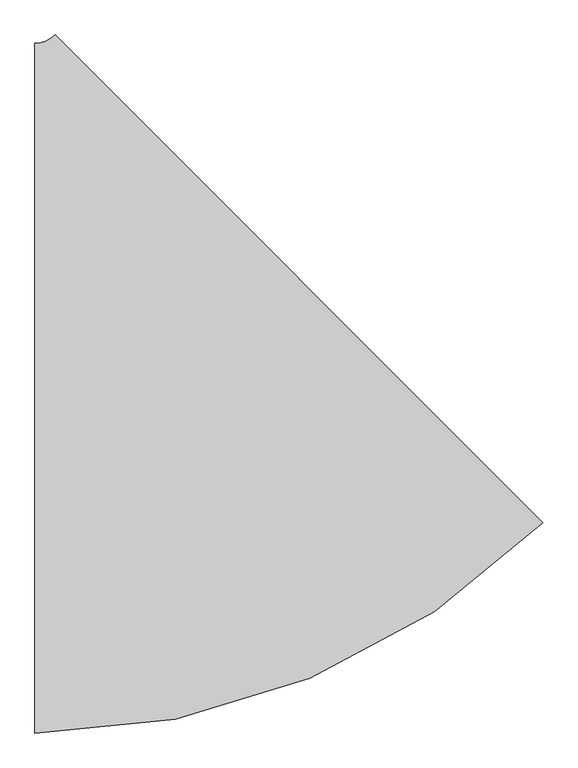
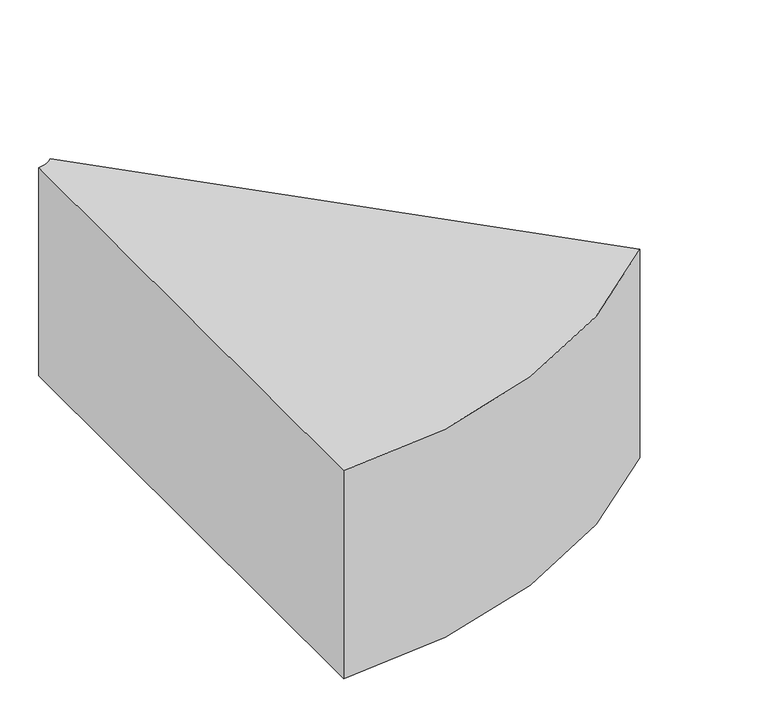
"""IFC4 building model written with IfcOpenShell, lengths in millimetres: duct fitting geometry, ADSK_ОтводВоздуховодов_Прямоугольный1 : Стандарт 2."""

from ifc_helpers import new_model, si_unit, point, frame, frame_2d, origin, place, context, project, spatial, polyline, circle_curve, trimmed, segment, composite_curve, outline, extrude, source, transform, mapped, element, save


def duct_fitting_d6f0d416(model_context):
    return source(origin(), model_context, "Body", "SweptSolid", [
        extrude(outline(composite_curve([segment(trimmed(circle_curve(frame_2d((-269.2388155, 650.0)), 1250.0), [point((614.6446609, -233.8834765))], [point((-269.2388155, -600.0))], False, "CARTESIAN"), True, "CONTINUOUS"), segment(polyline([(-269.2388155, -600.0), (-269.2388155, 600.0)]), True, "CONTINUOUS"), segment(trimmed(circle_curve(frame_2d((-269.2388155, 650.0)), 50.0), [point((-269.2388155, 600.0))], [point((-233.8834765, 614.6446609))], True, "CARTESIAN"), True, "CONTINUOUS"), segment(polyline([(-233.8834765, 614.6446609), (614.6446609, -233.8834765)]), True, "CONTINUOUS")], self_intersect=False)), frame((0.0, 0.0, -250.0), z_axis=(0.0, 0.0, 1.0), x_axis=(1.0, 0.0, 0.0)), (0.0, 0.0, 1.0), 500.0),
    ])


if __name__ == "__main__":
    model = new_model("IFC4")
    model_context = context("Model", 3, world=origin())
    ifc_project = project(units=[si_unit("LENGTHUNIT", "METRE", prefix="MILLI")], contexts=[model_context])
    site = spatial("IfcSite", under=ifc_project)
    building = spatial("IfcBuilding", under=site)
    placement = place(None, origin())
    duct_fitting_shape = duct_fitting_d6f0d416(model_context)
    element("IfcDuctFitting", 1, ObjectType="ADSK_ОтводВоздуховодов_Прямоугольный1 : Стандарт 2", at=placement, inside=building, context=model_context, shape_type="MappedRepresentation", body=[
        mapped(duct_fitting_shape, transform((0.0, 0.0, 0.0), x_axis=(1.0, 0.0, 0.0), y_axis=(0.0, 1.0, 0.0), z_axis=(0.0, 0.0, 1.0))),
    ])
    save(model, "model.ifc")
